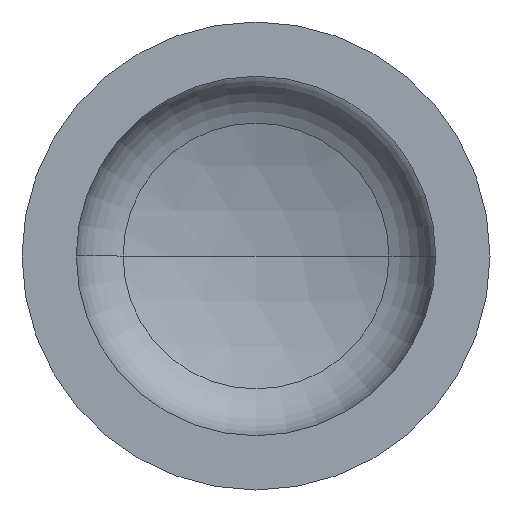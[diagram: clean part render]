
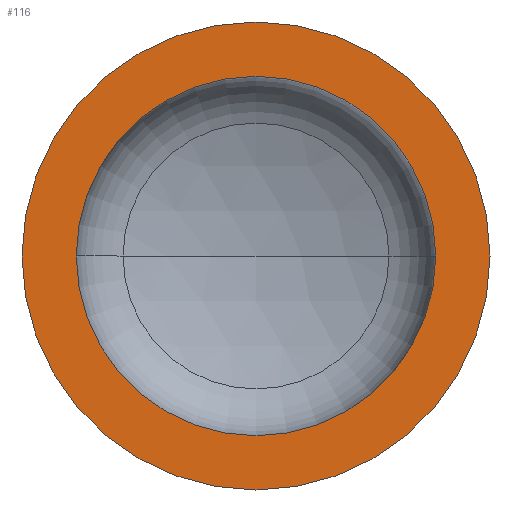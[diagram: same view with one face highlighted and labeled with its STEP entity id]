
A CAD part, front view. The second image highlights one B-rep face of the part: STEP entity #116.
In plain terms, the highlighted planar face has unit normal (0, -1, 0).
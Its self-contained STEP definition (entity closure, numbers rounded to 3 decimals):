
#6 = EDGE_LOOP ( 'NONE', ( #37, #27 ) ) ;
#17 = AXIS2_PLACEMENT_3D ( 'NONE', #218, #216, #214 ) ;
#20 = VERTEX_POINT ( 'NONE', #269 ) ;
#27 = ORIENTED_EDGE ( 'NONE', *, *, #366, .T. ) ;
#30 = VERTEX_POINT ( 'NONE', #262 ) ;
#36 = VERTEX_POINT ( 'NONE', #353 ) ;
#37 = ORIENTED_EDGE ( 'NONE', *, *, #344, .T. ) ;
#44 = EDGE_LOOP ( 'NONE', ( #209, #71 ) ) ;
#71 = ORIENTED_EDGE ( 'NONE', *, *, #404, .F. ) ;
#77 = VERTEX_POINT ( 'NONE', #219 ) ;
#78 = DIRECTION ( 'NONE',  ( 1., 0., 0. ) ) ;
#83 = CARTESIAN_POINT ( 'NONE',  ( 0., 0., 0. ) ) ;
#95 = CARTESIAN_POINT ( 'NONE',  ( 0., 0., 0. ) ) ;
#102 = DIRECTION ( 'NONE',  ( 0., -1., 0. ) ) ;
#116 = ADVANCED_FACE ( 'NONE', ( #198, #264 ), #317, .F. ) ;
#126 = CIRCLE ( 'NONE', #280, 500. ) ;
#132 = DIRECTION ( 'NONE',  ( 0., -1., 0. ) ) ;
#135 = DIRECTION ( 'NONE',  ( 1., 0., 0. ) ) ;
#181 = DIRECTION ( 'NONE',  ( 0., 1., 0. ) ) ;
#194 = CARTESIAN_POINT ( 'NONE',  ( 0., 0., 0. ) ) ;
#198 = FACE_BOUND ( 'NONE', #44, .T. ) ;
#200 = DIRECTION ( 'NONE',  ( 1., 0., 0. ) ) ;
#209 = ORIENTED_EDGE ( 'NONE', *, *, #256, .F. ) ;
#214 = DIRECTION ( 'NONE',  ( 1., 0., 0. ) ) ;
#216 = DIRECTION ( 'NONE',  ( 0., -1., 0. ) ) ;
#218 = CARTESIAN_POINT ( 'NONE',  ( 0., 0., 0. ) ) ;
#219 = CARTESIAN_POINT ( 'NONE',  ( -384., 0., 0. ) ) ;
#233 = AXIS2_PLACEMENT_3D ( 'NONE', #194, #132, #135 ) ;
#252 = AXIS2_PLACEMENT_3D ( 'NONE', #300, #181, #333 ) ;
#256 = EDGE_CURVE ( 'NONE', #30, #77, #301, .T. ) ;
#262 = CARTESIAN_POINT ( 'NONE',  ( 384., 0., 0. ) ) ;
#264 = FACE_OUTER_BOUND ( 'NONE', #6, .T. ) ;
#267 = CIRCLE ( 'NONE', #233, 500. ) ;
#269 = CARTESIAN_POINT ( 'NONE',  ( 500., 0., 0. ) ) ;
#280 = AXIS2_PLACEMENT_3D ( 'NONE', #95, #102, #78 ) ;
#296 = AXIS2_PLACEMENT_3D ( 'NONE', #83, #357, #200 ) ;
#300 = CARTESIAN_POINT ( 'NONE',  ( -500., 0., 0. ) ) ;
#301 = CIRCLE ( 'NONE', #17, 384. ) ;
#317 = PLANE ( 'NONE',  #252 ) ;
#333 = DIRECTION ( 'NONE',  ( -1., 0., 0. ) ) ;
#344 = EDGE_CURVE ( 'NONE', #20, #36, #267, .T. ) ;
#353 = CARTESIAN_POINT ( 'NONE',  ( -500., 0., 0. ) ) ;
#357 = DIRECTION ( 'NONE',  ( 0., -1., 0. ) ) ;
#366 = EDGE_CURVE ( 'NONE', #36, #20, #126, .T. ) ;
#393 = CIRCLE ( 'NONE', #296, 384. ) ;
#404 = EDGE_CURVE ( 'NONE', #77, #30, #393, .T. ) ;
